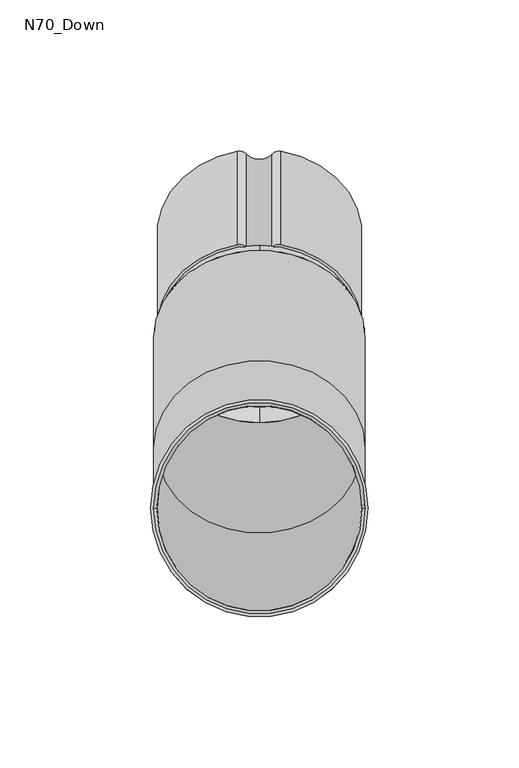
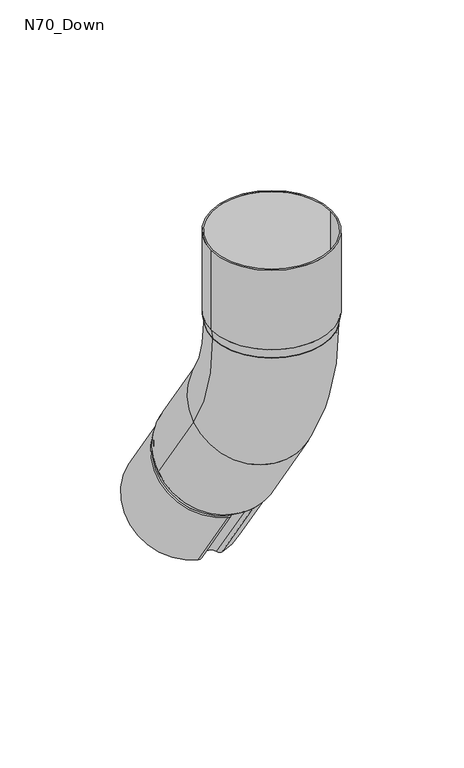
"""IFC4 building model written with IfcOpenShell, lengths in millimetres: proxy geometry, GROVIK_Downpipe_Adjustable offset : N70_Down."""

import ifcopenshell
import ifcopenshell.guid

model = None  # the IFC model being written
_history = None  # IfcOwnerHistory: only IFC2X3 demands one
_inside = {}  # id of a spatial element -> (the spatial element, [elements in it])
_under = {}  # id of a project, library or spatial element -> (it, [spatial elements below it])
_declared = {}  # id of a project -> (the project, [libraries it declares])
_typed = {}  # id of a type object -> (the type object, [elements of that type])
_made_of = {}  # id of a material, layer set ... -> (it, [elements and type objects made of it])


def new_model(schema):
    """Start an empty IFC model of exactly this schema.

    Asked for "IFC4X3", IfcOpenShell would pick the latest addendum, in which some entities
    have other attributes; the version numbers below select the first issue.
    IFC2X3 requires an IfcOwnerHistory on every rooted entity: one is made here for all.
    """
    global model, _history
    if schema == "IFC4X3":
        model = ifcopenshell.file(schema_version=(4, 3, 0, 0))
    else:
        model = ifcopenshell.file(schema=schema)
    _inside.clear()
    _under.clear()
    _declared.clear()
    _typed.clear()
    _made_of.clear()
    _history = None
    if model.schema == "IFC2X3":
        org = make("IfcOrganization", Name="unknown")
        user = make(
            "IfcPersonAndOrganization",
            ThePerson=make("IfcPerson", FamilyName="unknown"),
            TheOrganization=org,
        )
        app = make(
            "IfcApplication",
            ApplicationDeveloper=org,
            Version="unknown",
            ApplicationFullName="unknown",
            ApplicationIdentifier="unknown",
        )
        _history = make(
            "IfcOwnerHistory",
            OwningUser=user,
            OwningApplication=app,
            ChangeAction="ADDED",
            CreationDate=0,
        )
    return model


def make(cls, **values):
    """One entity of the class cls with the attributes given. An attribute that is None is left unset."""
    return model.create_entity(
        cls, **{name: value for name, value in values.items() if value is not None}
    )


def rooted(cls, **values):
    """An entity with a GlobalId (a new one), such as an element, a storey or a relation."""
    return make(cls, GlobalId=ifcopenshell.guid.new(), OwnerHistory=_history, **values)


def si_unit(unit_type, name, prefix=None):
    """IfcSIUnit, for example si_unit("LENGTHUNIT", "METRE", prefix="MILLI")."""
    return make("IfcSIUnit", UnitType=unit_type, Prefix=prefix, Name=name)


def assignment(units):
    """IfcUnitAssignment: the units of a project."""
    return None if units is None else make("IfcUnitAssignment", Units=units)


def point(xyz):
    """IfcCartesianPoint."""
    return None if xyz is None else make("IfcCartesianPoint", Coordinates=xyz)


def direction(xyz):
    """IfcDirection."""
    return None if xyz is None else make("IfcDirection", DirectionRatios=xyz)


def frame(location, z_axis=None, x_axis=None):
    """IfcAxis2Placement3D, a coordinate frame: its origin and axes. An axis left out is left unset."""
    return make(
        "IfcAxis2Placement3D",
        Location=point(location),
        Axis=direction(z_axis),
        RefDirection=direction(x_axis),
    )


def frame_2d(location, x_axis=None):
    """IfcAxis2Placement2D, a coordinate frame in the plane: its origin and x axis."""
    return make(
        "IfcAxis2Placement2D", Location=point(location), RefDirection=direction(x_axis)
    )


def origin():
    """The frame at (0, 0, 0) with its axes left unset."""
    return frame((0.0, 0.0, 0.0))


def origin_with_axes():
    """The frame at (0, 0, 0) with the z axis (0, 0, 1) and the x axis (1, 0, 0) written out."""
    return frame((0.0, 0.0, 0.0), z_axis=(0.0, 0.0, 1.0), x_axis=(1.0, 0.0, 0.0))


def origin_2d():
    """The frame at (0, 0) in the plane with its x axis left unset."""
    return frame_2d((0.0, 0.0))


def place(relative_to, where):
    """IfcLocalPlacement: puts the frame where relative to a parent placement (None: the world)."""
    return make(
        "IfcLocalPlacement", PlacementRelTo=relative_to, RelativePlacement=where
    )


def context(
    kind, dimensions, precision=None, world=None, true_north=None, identifier=None
):
    """IfcGeometricRepresentationContext, for example the 3D "Model" context."""
    return make(
        "IfcGeometricRepresentationContext",
        ContextIdentifier=identifier,
        ContextType=kind,
        CoordinateSpaceDimension=dimensions,
        Precision=precision,
        WorldCoordinateSystem=world,
        TrueNorth=true_north,
    )


def project(units=None, contexts=None):
    """IfcProject with its units and contexts."""
    return rooted(
        "IfcProject",
        Name="project",
        RepresentationContexts=contexts,
        UnitsInContext=assignment(units),
    )


def spatial(cls, under=None, at=None, **own):
    """A site, building, storey or space (cls), placed at a placement, below another one or the project."""
    s = rooted(cls, ObjectPlacement=at, **own)
    if under is not None:
        _under.setdefault(under.id(), (under, []))[1].append(s)
    return s


def polyline(points):
    """IfcPolyline through the points."""
    return make("IfcPolyline", Points=[point(p) for p in points])


def circle_curve(where, radius):
    """IfcCircle in the frame where."""
    return make("IfcCircle", Position=where, Radius=radius)


def ellipse_curve(where, semi_axis1, semi_axis2):
    """IfcEllipse in the frame where."""
    return make(
        "IfcEllipse", Position=where, SemiAxis1=semi_axis1, SemiAxis2=semi_axis2
    )


def trimmed(basis, trim1, trim2, sense, master):
    """IfcTrimmedCurve: the piece of a basis curve between two trims."""
    return make(
        "IfcTrimmedCurve",
        BasisCurve=basis,
        Trim1=trim1,
        Trim2=trim2,
        SenseAgreement=sense,
        MasterRepresentation=master,
    )


def segment(curve, same_sense, transition):
    """IfcCompositeCurveSegment."""
    return make(
        "IfcCompositeCurveSegment",
        Transition=transition,
        SameSense=same_sense,
        ParentCurve=curve,
    )


def composite_curve(segments, self_intersect=None):
    """IfcCompositeCurve: segments joined end to end."""
    return make("IfcCompositeCurve", Segments=segments, SelfIntersect=self_intersect)


def outline(outer, holes=None, kind="AREA"):
    """IfcArbitraryClosedProfileDef: a profile drawn as a closed curve; with holes, ...WithVoids."""
    if holes is None:
        return make("IfcArbitraryClosedProfileDef", ProfileType=kind, OuterCurve=outer)
    return make(
        "IfcArbitraryProfileDefWithVoids",
        ProfileType=kind,
        OuterCurve=outer,
        InnerCurves=holes,
    )


def extrude(swept, where, along, depth):
    """IfcExtrudedAreaSolid: the profile swept, set in the frame where, extruded along a direction by depth."""
    return make(
        "IfcExtrudedAreaSolid",
        SweptArea=swept,
        Position=where,
        ExtrudedDirection=direction(along),
        Depth=depth,
    )


def shape(context_of_items, identifier, shape_type, items):
    """IfcShapeRepresentation: the items that make up one representation, for example the "Body"."""
    return make(
        "IfcShapeRepresentation",
        ContextOfItems=context_of_items,
        RepresentationIdentifier=identifier,
        RepresentationType=shape_type,
        Items=items,
    )


def source(mapping_origin, context_of_items, identifier, shape_type, items):
    """IfcRepresentationMap: a shape defined once, which mapped items show again and again."""
    return make(
        "IfcRepresentationMap",
        MappingOrigin=mapping_origin,
        MappedRepresentation=shape(context_of_items, identifier, shape_type, items),
    )


def transform(
    local_origin,
    x_axis=None,
    y_axis=None,
    z_axis=None,
    scale=None,
    scale2=None,
    scale3=None,
    uniform=True,
):
    """IfcCartesianTransformationOperator3D, or its non-uniform kind. x_axis, y_axis, z_axis: its Axis1, 2, 3."""
    if uniform:
        return make(
            "IfcCartesianTransformationOperator3D",
            Axis1=direction(x_axis),
            Axis2=direction(y_axis),
            LocalOrigin=point(local_origin),
            Scale=scale,
            Axis3=direction(z_axis),
        )
    return make(
        "IfcCartesianTransformationOperator3DnonUniform",
        Axis1=direction(x_axis),
        Axis2=direction(y_axis),
        LocalOrigin=point(local_origin),
        Scale=scale,
        Axis3=direction(z_axis),
        Scale2=scale2,
        Scale3=scale3,
    )


def mapped(mapping_source, mapping_target):
    """IfcMappedItem: shows the shape of a source again, moved by a transform."""
    return make(
        "IfcMappedItem", MappingSource=mapping_source, MappingTarget=mapping_target
    )


def made_of(thing, what):
    """Note that an element or type object is made of a material, layer set ...; save() writes the relation."""
    if what is not None:
        _made_of.setdefault(what.id(), (what, []))[1].append(thing)
    return thing


def element(
    cls,
    number,
    at=None,
    inside=None,
    cuts=None,
    type_object=None,
    material=None,
    context=None,
    identifier="Body",
    shape_type=None,
    held_by="IfcProductDefinitionShape",
    body=None,
    shapes=None,
    **own,
):
    """One element of the class cls, such as IfcWall. Its Tag is "e" and its number.

    at: its placement. inside: the storey or other place that contains it. cuts: it is an
    opening in that element (IfcRelVoidsElement). A single representation is given by context,
    identifier, shape_type and body (its items); several are given by shapes. held_by: the class
    of the entity that holds the representations. save() writes the other relations.
    """
    e = rooted(cls, Tag="e%d" % number, ObjectPlacement=at, **own)
    if body is not None:
        shapes = [shape(context, identifier, shape_type, body)]
    if shapes is not None:
        e.Representation = make(held_by, Representations=shapes)
    if inside is not None:
        _inside.setdefault(inside.id(), (inside, []))[1].append(e)
    if cuts is not None:
        rooted(
            "IfcRelVoidsElement", RelatingBuildingElement=cuts, RelatedOpeningElement=e
        )
    if type_object is not None:
        _typed.setdefault(type_object.id(), (type_object, []))[1].append(e)
    return made_of(e, material)


def aggregate(whole, parts):
    """IfcRelAggregates: a whole, such as a stair, and the parts it consists of."""
    return rooted("IfcRelAggregates", RelatingObject=whole, RelatedObjects=parts)


def save(model, path):
    """Write the relations noted so far, then the file.

    IfcRelAggregates (storeys below a building ...), IfcRelContainedInSpatialStructure (elements
    in a storey), IfcRelDefinesByType, IfcRelAssociatesMaterial and IfcRelDeclares: one each for
    every whole, place, type object, material and project.
    """
    for whole, parts in _under.values():
        aggregate(whole, parts)
    for where, things in _inside.values():
        rooted(
            "IfcRelContainedInSpatialStructure",
            RelatedElements=things,
            RelatingStructure=where,
        )
    for kind, things in _typed.values():
        rooted("IfcRelDefinesByType", RelatedObjects=things, RelatingType=kind)
    for what, things in _made_of.values():
        rooted("IfcRelAssociatesMaterial", RelatedObjects=things, RelatingMaterial=what)
    for by, libraries in _declared.values():
        rooted("IfcRelDeclares", RelatingContext=by, RelatedDefinitions=libraries)
    model.write(path)


def plane_surface(at):
    """IfcPlane: the flat surface through the origin of the frame at, square to its z axis."""
    return make("IfcPlane", Position=at)


def cylinder_surface(at, radius):
    """IfcCylindricalSurface: all points at the distance radius from the z axis of the frame at."""
    return make("IfcCylindricalSurface", Position=at, Radius=radius)


def revolved_surface(curve, axis_point, axis_direction):
    """IfcSurfaceOfRevolution: the curve turned about the line through axis_point along axis_direction."""
    return make(
        "IfcSurfaceOfRevolution",
        SweptCurve=make("IfcArbitraryOpenProfileDef", ProfileType="CURVE", Curve=curve),
        AxisPosition=make("IfcAxis1Placement", Location=point(axis_point), Axis=direction(axis_direction)),
    )


def advanced_brep(points, edges, surfaces, faces):
    """IfcAdvancedBrep: a solid bounded by faces that lie on surfaces and meet in shared edges.

    An edge is (start, end): straight between two places in points (the first is 0);
    or (start, end, curve); or (start, end, curve, False) where it runs against its curve.
    A face is (place in surfaces, loops), or (place, loops, False) where it looks against
    its surface's normal. A loop lists edges by number (the first is 1), with a minus sign
    where the edge is run from its end to its start. The first loop is the outer one.
    """
    corners = [point(p) for p in points]
    vertices = [make("IfcVertexPoint", VertexGeometry=c) for c in corners]
    made = []
    for start, end, *more in edges:
        made.append(
            make(
                "IfcEdgeCurve",
                EdgeStart=vertices[start],
                EdgeEnd=vertices[end],
                EdgeGeometry=more[0] if more else make("IfcPolyline", Points=[corners[start], corners[end]]),
                SameSense=more[1] if len(more) > 1 else True,
            )
        )
    hull = []
    for where, loops, *sense in faces:
        bounds = []
        for j, loop in enumerate(loops):
            ring = [make("IfcOrientedEdge", EdgeElement=made[abs(k) - 1], Orientation=k > 0) for k in loop]
            bounds.append(
                make(
                    "IfcFaceOuterBound" if j == 0 else "IfcFaceBound",
                    Bound=make("IfcEdgeLoop", EdgeList=ring),
                    Orientation=True,
                )
            )
        hull.append(make("IfcAdvancedFace", Bounds=bounds, FaceSurface=surfaces[where], SameSense=sense[0] if sense else True))
    return make("IfcAdvancedBrep", Outer=make("IfcClosedShell", CfsFaces=hull))


def n70_down_66f759a8(model_context):
    return source(origin(), model_context, "Body", "SolidModel", [
        advanced_brep(
        [(-35.0, 0.0, 0.0), (35.0, 0.0, 0.0), (-34.0, 0.0, 0.0), (34.0, 0.0, 0.0), (34.0, 19.9195922, -64.6893813), (-34.0, 19.9195922, -64.6893813), (35.0, 19.9195922, -64.6893813), (-35.0, 19.9195922, -64.6893813), (-35.0, 56.4808123, -118.4320756), (35.0, 56.4808123, -118.4320756), (-34.0, 56.4808123, -118.4320756), (34.0, 56.4808123, -118.4320756)],
        [
            (0, 1, circle_curve(origin_with_axes(), 35.0)),
            (1, 0, circle_curve(origin_with_axes(), 35.0)),
            (2, 3, circle_curve(frame((0.0, 0.0, 0.0), z_axis=(0.0, 0.0, -1.0), x_axis=(1.0, 0.0, 0.0)), 34.0)),
            (3, 2, circle_curve(frame((0.0, 0.0, 0.0), z_axis=(0.0, 0.0, -1.0), x_axis=(1.0, 0.0, 0.0)), 34.0)),
            (4, 3, circle_curve(frame((34.0, 115.0, 0.0), z_axis=(-1.0, 0.0, 0.0), x_axis=(0.0, -1.0, 0.0)), 115.0)),
            (2, 5, circle_curve(frame((-34.0, 115.0, 0.0), z_axis=(1.0, 0.0, 0.0), x_axis=(0.0, -1.0, 0.0)), 115.0)),
            (5, 4, circle_curve(frame((0.0, 19.9195922, -64.6893813), z_axis=(0.0, 0.5625163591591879, -0.8267861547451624), x_axis=(1.0, 0.0, 0.0)), 34.0)),
            (4, 5, circle_curve(frame((0.0, 19.9195922, -64.6893813), z_axis=(0.0, 0.562516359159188, -0.8267861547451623), x_axis=(1.0, 0.0, 0.0)), 34.0)),
            (6, 1, circle_curve(frame((35.0, 115.0, 0.0), z_axis=(-1.0, 0.0, 0.0), x_axis=(0.0, -1.0, 0.0)), 115.0)),
            (0, 7, circle_curve(frame((-35.0, 115.0, 0.0), z_axis=(1.0, 0.0, 0.0), x_axis=(0.0, -1.0, 0.0)), 115.0)),
            (7, 6, circle_curve(frame((0.0, 19.9195922, -64.6893813), z_axis=(0.0, -0.5625163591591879, 0.8267861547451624), x_axis=(1.0, 0.0, 0.0)), 35.0)),
            (6, 7, circle_curve(frame((0.0, 19.9195922, -64.6893813), z_axis=(0.0, -0.562516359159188, 0.8267861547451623), x_axis=(1.0, 0.0, 0.0)), 35.0)),
            (8, 9, circle_curve(frame((0.0, 56.4808123, -118.4320756), z_axis=(0.0, 0.5624803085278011, -0.8268106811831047), x_axis=(1.0, 0.0, 0.0)), 35.0)),
            (9, 8, circle_curve(frame((0.0, 56.4808123, -118.4320756), z_axis=(0.0, 0.5624803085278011, -0.8268106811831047), x_axis=(1.0, 0.0, 0.0)), 35.0)),
            (10, 11, circle_curve(frame((0.0, 56.4808123, -118.4320756), z_axis=(0.0, -0.5624803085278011, 0.8268106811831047), x_axis=(1.0, 0.0, 0.0)), 34.0)),
            (11, 10, circle_curve(frame((0.0, 56.4808123, -118.4320756), z_axis=(0.0, -0.5624803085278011, 0.8268106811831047), x_axis=(1.0, 0.0, 0.0)), 34.0)),
            (5, 10),
            (11, 4),
            (7, 8),
            (9, 6),
        ],
        [
            plane_surface(origin_with_axes()),
            revolved_surface(trimmed(ellipse_curve(frame((0.0, 0.0, 0.0), z_axis=(0.0, 0.0, -1.0), x_axis=(1.0, 0.0, 0.0)), 34.0, 34.0), [point((-34.0, 0.0, 0.0))], [point((34.0, 0.0, 0.0))], True, "CARTESIAN"), (0.0, 115.0, 0.0), (1.0, 0.0, 0.0)),
            revolved_surface(trimmed(ellipse_curve(frame((0.0, 0.0, 0.0), z_axis=(0.0, 0.0, -1.0), x_axis=(1.0, 0.0, 0.0)), 34.0, 34.0), [point((34.0, 0.0, 0.0))], [point((-34.0, 0.0, 0.0))], True, "CARTESIAN"), (0.0, 115.0, 0.0), (1.0, 0.0, 0.0)),
            revolved_surface(trimmed(ellipse_curve(origin_with_axes(), 35.0, 35.0), [point((-35.0, 0.0, 0.0))], [point((35.0, 0.0, 0.0))], True, "CARTESIAN"), (0.0, 115.0, 0.0), (1.0, 0.0, 0.0)),
            revolved_surface(trimmed(ellipse_curve(origin_with_axes(), 35.0, 35.0), [point((35.0, 0.0, 0.0))], [point((-35.0, 0.0, 0.0))], True, "CARTESIAN"), (0.0, 115.0, 0.0), (1.0, 0.0, 0.0)),
            plane_surface(frame((0.0, 56.4808123, -118.4320756), z_axis=(0.0, 0.5624803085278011, -0.8268106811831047), x_axis=(1.0, 0.0, 0.0))),
            revolved_surface(polyline([(34.0, 56.48081227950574, -118.43207561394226), (34.0, 19.91875832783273, -64.68815556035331)]), (0.0, 19.9195922, -64.6893813), (0.0, 0.5624803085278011, -0.8268106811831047)),
            revolved_surface(polyline([(34.0, 56.48081227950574, -118.43207561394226), (34.0, 19.918758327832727, -64.68815556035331)]), (0.0, 19.9195922, -64.6893813), (0.0, 0.5624803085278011, -0.8268106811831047)),
            cylinder_surface(frame((0.0, 19.9195922, -64.6893813), z_axis=(0.0, -0.5624803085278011, 0.8268106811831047), x_axis=(1.0, 0.0, 0.0)), 35.0),
        ],
        [
            (0, [[1, 2], [3, 4]]),
            (1, [[5, -3, 6, 7]]),
            (2, [[-6, -4, -5, 8]]),
            (3, [[9, -1, 10, 11]]),
            (4, [[-10, -2, -9, 12]]),
            (5, [[13, 14], [15, 16]]),
            (6, [[-7, 17, -16, 18]]),
            (7, [[-8, -18, -15, -17]]),
            (8, [[-11, 19, -14, 20]]),
            (8, [[-12, -20, -13, -19]]),
        ],
    ),
        extrude(outline(composite_curve([segment(trimmed(circle_curve(origin_2d(), 34.0), [point((-7.2, -33.2289031))], [point((-7.2, 33.2289031))], False, "CARTESIAN"), True, "CONTINUOUS"), segment(trimmed(circle_curve(frame_2d((-6.6504209, 30.1934466)), 3.0848069), [point((-7.2, 33.2289031))], [point((-4.2037022, 32.0721698))], False, "CARTESIAN"), True, "CONTINUOUS"), segment(trimmed(circle_curve(frame_2d((0.0, 35.3)), 5.3), [point((-4.2037022, 32.0721698))], [point((4.2058428, 32.0749595))], True, "CARTESIAN"), True, "CONTINUOUS"), segment(trimmed(circle_curve(frame_2d((6.6465812, 30.203401)), 3.0757007), [point((4.2058428, 32.0749595))], [point((7.2, 33.2289031))], False, "CARTESIAN"), True, "CONTINUOUS"), segment(trimmed(circle_curve(origin_2d(), 34.0), [point((7.2, 33.2289031))], [point((7.2, -33.2289031))], False, "CARTESIAN"), True, "CONTINUOUS"), segment(trimmed(circle_curve(frame_2d((6.6465812, -30.203401)), 3.0757007), [point((7.2, -33.2289031))], [point((4.2058428, -32.0749594))], False, "CARTESIAN"), True, "CONTINUOUS"), segment(trimmed(circle_curve(frame_2d((0.0, -35.2999999)), 5.3), [point((4.2058428, -32.0749594))], [point((-4.2037022, -32.0721697))], True, "CARTESIAN"), True, "CONTINUOUS"), segment(trimmed(circle_curve(frame_2d((-6.6504209, -30.1934466)), 3.0848069), [point((-4.2037022, -32.0721697))], [point((-7.2, -33.2289031))], False, "CARTESIAN"), True, "CONTINUOUS")], self_intersect=False), holes=[composite_curve([segment(trimmed(circle_curve(frame_2d((-6.6504209, -30.1934466)), 2.0848069), [point((-7.1903364, -32.2071275))], [point((-4.9968535, -31.4631451))], True, "CARTESIAN"), True, "CONTINUOUS"), segment(trimmed(circle_curve(frame_2d((0.0, -35.2999999)), 6.3), [point((-4.9968535, -31.4631451))], [point((4.999398, -31.4664612))], False, "CARTESIAN"), True, "CONTINUOUS"), segment(trimmed(circle_curve(frame_2d((6.6465812, -30.203401)), 2.0757007), [point((4.999398, -31.4664612))], [point((7.1790209, -32.2096516))], True, "CARTESIAN"), True, "CONTINUOUS"), segment(trimmed(circle_curve(origin_2d(), 33.0), [point((7.1790209, -32.2096516))], [point((7.1790209, 32.2096517))], True, "CARTESIAN"), True, "CONTINUOUS"), segment(trimmed(circle_curve(frame_2d((6.6465812, 30.203401)), 2.0757007), [point((7.1790209, 32.2096517))], [point((4.999398, 31.4664612))], True, "CARTESIAN"), True, "CONTINUOUS"), segment(trimmed(circle_curve(frame_2d((0.0, 35.3)), 6.3), [point((4.999398, 31.4664612))], [point((-4.9968535, 31.4631453))], False, "CARTESIAN"), True, "CONTINUOUS"), segment(trimmed(circle_curve(frame_2d((-6.6504209, 30.1934466)), 2.0848069), [point((-4.9968535, 31.4631453))], [point((-7.1903364, 32.2071275))], True, "CARTESIAN"), True, "CONTINUOUS"), segment(trimmed(circle_curve(origin_2d(), 33.0), [point((-7.1903364, 32.2071275))], [point((-7.1903364, -32.2071275))], True, "CARTESIAN"), True, "CONTINUOUS")], self_intersect=False)]), frame((0.0, 90.7966534, -168.8644368), z_axis=(0.0, -0.5625163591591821, 0.8267861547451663), x_axis=(1.0, 0.0, 0.0)), (0.0, 0.0, 1.0), 54.9999999),
        extrude(outline(composite_curve([segment(trimmed(circle_curve(origin_2d(), 36.0), [point((-36.0, 0.0))], [point((36.0, 0.0))], False, "CARTESIAN"), True, "CONTINUOUS"), segment(trimmed(circle_curve(origin_2d(), 36.0), [point((36.0, 0.0))], [point((-36.0, 0.0))], False, "CARTESIAN"), True, "CONTINUOUS")], self_intersect=False), holes=[composite_curve([segment(trimmed(circle_curve(origin_2d(), 35.0), [point((-35.0, 0.0))], [point((35.0, 0.0))], True, "CARTESIAN"), True, "CONTINUOUS"), segment(trimmed(circle_curve(origin_2d(), 35.0), [point((35.0, 0.0))], [point((-35.0, 0.0))], True, "CARTESIAN"), True, "CONTINUOUS")], self_intersect=False)]), frame((0.0, 0.0, 6.0), z_axis=(0.0, 0.0, 1.0), x_axis=(1.0, 0.0, 0.0)), (0.0, 0.0, 1.0), 50.0),
        advanced_brep(
        [(-35.0, 0.0, 0.0), (35.0, 0.0, 0.0), (34.0, 0.0, 0.0), (-34.0, 0.0, 0.0), (-36.0, 0.0, 6.0), (36.0, 0.0, 6.0), (-35.0, 0.0, 6.0), (35.0, 0.0, 6.0)],
        [
            (0, 1, circle_curve(frame((0.0, 0.0, 0.0), z_axis=(0.0, 0.0, -1.0), x_axis=(-1.0, 0.0, 0.0)), 35.0)),
            (1, 0, circle_curve(frame((0.0, 0.0, 0.0), z_axis=(0.0, 0.0, -1.0), x_axis=(1.0, 0.0, 0.0)), 35.0)),
            (2, 3, circle_curve(frame((0.0, 0.0, 0.0), z_axis=(0.0, 0.0, 1.0), x_axis=(-1.0, 0.0, 0.0)), 34.0)),
            (3, 2, circle_curve(origin_with_axes(), 34.0)),
            (4, 5, circle_curve(frame((0.0, 0.0, 6.0), z_axis=(0.0, 0.0, 1.0), x_axis=(1.0, 0.0, 0.0)), 36.0)),
            (5, 4, circle_curve(frame((0.0, 0.0, 6.0), z_axis=(0.0, 0.0, 1.0), x_axis=(-1.0, 0.0, 0.0)), 36.0)),
            (6, 7, circle_curve(frame((0.0, 0.0, 6.0), z_axis=(0.0, 0.0, -1.0), x_axis=(-1.0, 0.0, 0.0)), 35.0)),
            (7, 6, circle_curve(frame((0.0, 0.0, 6.0), z_axis=(0.0, 0.0, -1.0), x_axis=(1.0, 0.0, 0.0)), 35.0)),
            (0, 4),
            (5, 1),
            (6, 3),
            (2, 7),
        ],
        [
            plane_surface(frame((0.0, 0.0, 0.0), z_axis=(0.0, 0.0, -1.0), x_axis=(0.0, 1.0, 0.0))),
            plane_surface(frame((0.0, 0.0, 6.0), z_axis=(0.0, 0.0, 1.0), x_axis=(0.0, 1.0, 0.0))),
            revolved_surface(polyline([(-35.0, 0.0, 0.0), (-36.0, 0.0, 6.0)]), (0.0, 0.0, -210.0), (0.0, 0.0, 1.0)),
            revolved_surface(polyline([(35.0, 0.0, 0.0), (36.0, 0.0, 6.0)]), (0.0, 0.0, -210.0), (0.0, 0.0, 1.0)),
            revolved_surface(polyline([(-35.0, 0.0, 6.0), (-34.0, 0.0, 0.0)]), (0.0, 0.0, -204.0), (0.0, 0.0, 1.0)),
        ],
        [
            (0, [[1, 2], [3, 4]]),
            (1, [[5, 6], [7, 8]]),
            (2, [[-1, 9, -6, 10]]),
            (3, [[-2, -10, -5, -9]]),
            (4, [[11, -3, 12, -7]]),
            (4, [[-11, -8, -12, -4]]),
        ],
    ),
        advanced_brep(
        [(0.0, 32.5743106, -141.9542382), (0.0, 87.1421968, -104.8281585), (0.0, 86.3154107, -105.3906748), (0.0, 33.4010968, -141.3917218), (0.0, 27.5456402, -138.118554), (0.0, 85.420671, -98.7424088), (0.0, 28.3724263, -137.5560376), (0.0, 84.5938848, -99.3049252)],
        [
            (0, 1, circle_curve(frame((0.0, 59.8582537, -123.3911983), z_axis=(0.0, 0.56251635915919, -0.8267861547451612), x_axis=(0.0, -0.8267861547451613, -0.5625163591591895)), 33.0)),
            (1, 0, circle_curve(frame((0.0, 59.8582537, -123.3911983), z_axis=(0.0, 0.56251635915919, -0.8267861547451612), x_axis=(0.0, 0.8267861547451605, 0.5625163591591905)), 33.0)),
            (2, 3, circle_curve(frame((0.0, 59.8582537, -123.3911983), z_axis=(0.0, -0.5625163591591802, 0.8267861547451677), x_axis=(0.0, -0.8267861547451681, -0.5625163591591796)), 32.0)),
            (3, 2, circle_curve(frame((0.0, 59.8582537, -123.3911983), z_axis=(0.0, -0.5625163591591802, 0.8267861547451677), x_axis=(0.0, 0.826786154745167, 0.5625163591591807)), 32.0)),
            (4, 5, circle_curve(frame((0.0, 56.4831556, -118.4304814), z_axis=(0.0, -0.56251635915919, 0.8267861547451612), x_axis=(0.0, 0.8267861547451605, 0.5625163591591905)), 35.0)),
            (5, 4, circle_curve(frame((0.0, 56.4831556, -118.4304814), z_axis=(0.0, -0.56251635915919, 0.8267861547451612), x_axis=(0.0, -0.8267861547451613, -0.5625163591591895)), 35.0)),
            (6, 7, circle_curve(frame((0.0, 56.4831556, -118.4304814), z_axis=(0.0, 0.5625163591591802, -0.8267861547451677), x_axis=(0.0, -0.8267861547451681, -0.5625163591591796)), 34.0)),
            (7, 6, circle_curve(frame((0.0, 56.4831556, -118.4304814), z_axis=(0.0, 0.5625163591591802, -0.8267861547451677), x_axis=(0.0, 0.826786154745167, 0.5625163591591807)), 34.0)),
            (0, 4),
            (5, 1),
            (6, 3),
            (2, 7),
        ],
        [
            plane_surface(frame((0.0, 59.8582537, -123.3911983), z_axis=(0.0, 0.5625163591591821, -0.8267861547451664), x_axis=(-1.0, 0.0, 0.0))),
            plane_surface(frame((0.0, 56.4831556, -118.4304814), z_axis=(0.0, -0.5625163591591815, 0.8267861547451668), x_axis=(-1.0, 0.0, 0.0))),
            revolved_surface(polyline([(0.0, 32.57431062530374, -141.9542381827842), (0.0, 27.545640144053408, -138.118553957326)]), (0.0, 115.5473733, -205.2430277), (0.0, -0.5625163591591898, 0.8267861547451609)),
            revolved_surface(polyline([(0.0, 87.14219685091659, -104.82815846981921), (0.0, 85.420671, -98.7424088)]), (0.0, 115.5473733, -205.2430277), (0.0, -0.5625163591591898, 0.8267861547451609)),
            revolved_surface(polyline([(0.0, 28.3724263, -137.5560376), (0.0, 33.4010967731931, -141.39172181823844)]), (0.0, 113.8598242, -202.7626692), (0.0, -0.5625163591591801, 0.8267861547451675)),
        ],
        [
            (0, [[1, 2], [3, 4]]),
            (1, [[5, 6], [7, 8]]),
            (2, [[-1, 9, -6, 10]]),
            (3, [[-2, -10, -5, -9]]),
            (4, [[11, -3, 12, -7]]),
            (4, [[-11, -8, -12, -4]]),
        ],
    ),
    ])


if __name__ == "__main__":
    model = new_model("IFC4")
    model_context = context("Model", 3, world=origin())
    ifc_project = project(units=[si_unit("LENGTHUNIT", "METRE", prefix="MILLI")], contexts=[model_context])
    site = spatial("IfcSite", under=ifc_project)
    building = spatial("IfcBuilding", under=site)
    placement = place(None, origin())
    n70_down_shape = n70_down_66f759a8(model_context)
    element("IfcBuildingElementProxy", 1, Name="GROVIK_Downpipe_Adjustable offset : N70_Down", ObjectType="GROVIK_Downpipe_Adjustable offset : N70_Down", at=placement, inside=building, context=model_context, shape_type="MappedRepresentation", body=[
        mapped(n70_down_shape, transform((0.0, 0.0, 0.0), x_axis=(1.0, 0.0, 0.0), y_axis=(0.0, 1.0, 0.0), z_axis=(0.0, 0.0, 1.0))),
    ])
    save(model, "model.ifc")
